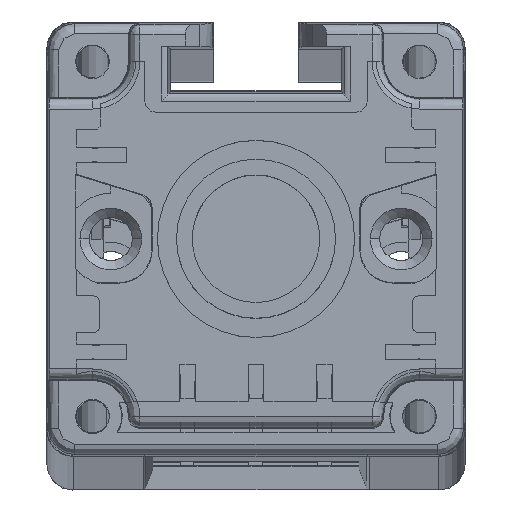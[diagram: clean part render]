
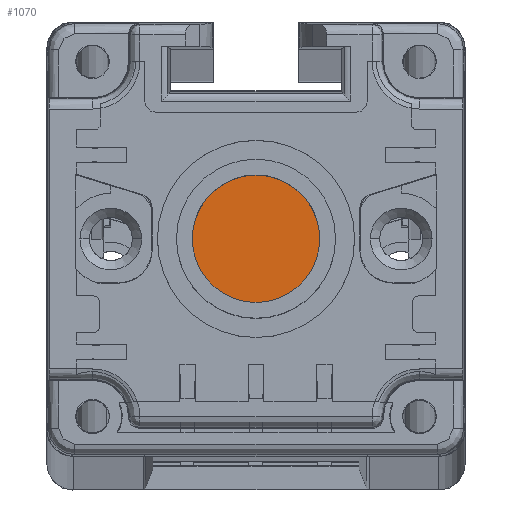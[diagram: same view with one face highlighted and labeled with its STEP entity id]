
A CAD part, top view. The second image highlights one B-rep face of the part: STEP entity #1070.
In plain terms, the highlighted planar face has unit normal (0, 0, 1).
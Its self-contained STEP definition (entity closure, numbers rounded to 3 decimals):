
#1070=ADVANCED_FACE('',(#2034),#1539,.T.);
#1539=PLANE('',#13341);
#2034=FACE_OUTER_BOUND('',#2672,.T.);
#2672=EDGE_LOOP('',(#7402,#7403));
#7402=ORIENTED_EDGE('',*,*,#11440,.T.);
#7403=ORIENTED_EDGE('',*,*,#11438,.T.);
#9851=VERTEX_POINT('',#19947);
#9852=VERTEX_POINT('',#19949);
#11438=EDGE_CURVE('',#9852,#9851,#12517,.T.);
#11440=EDGE_CURVE('',#9851,#9852,#12518,.T.);
#12517=CIRCLE('',#13337,4.85);
#12518=CIRCLE('',#13339,4.85);
#13337=AXIS2_PLACEMENT_3D('',#19948,#15875,#15876);
#13339=AXIS2_PLACEMENT_3D('',#19952,#15880,#15881);
#13341=AXIS2_PLACEMENT_3D('',#19954,#15884,#15885);
#15875=DIRECTION('',(0.,0.,1.));
#15876=DIRECTION('',(1.,0.,0.));
#15880=DIRECTION('',(0.,0.,1.));
#15881=DIRECTION('',(-1.,0.,0.));
#15884=DIRECTION('',(0.,0.,1.));
#15885=DIRECTION('',(1.,0.,0.));
#19947=CARTESIAN_POINT('',(20.025,26.865,16.));
#19948=CARTESIAN_POINT('',(24.875,26.865,16.));
#19949=CARTESIAN_POINT('',(29.725,26.865,16.));
#19952=CARTESIAN_POINT('',(24.875,26.865,16.));
#19954=CARTESIAN_POINT('',(0.,0.,16.));
